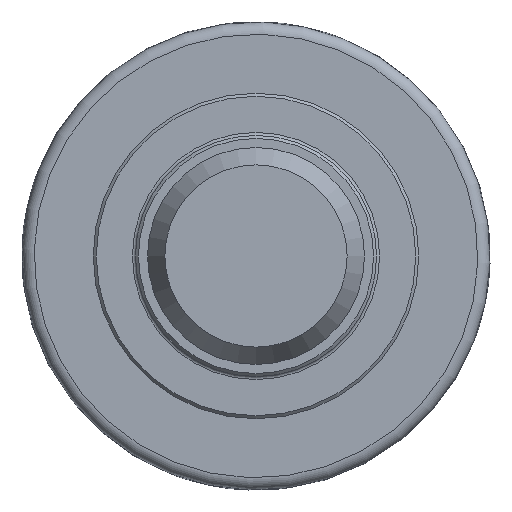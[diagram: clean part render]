
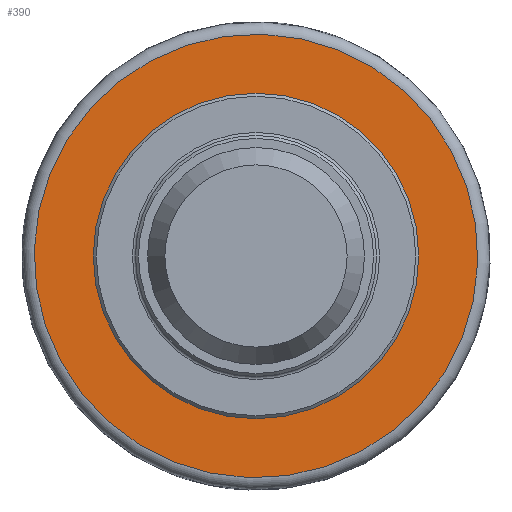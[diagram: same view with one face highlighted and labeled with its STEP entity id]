
A CAD part, left-side view. The second image highlights one B-rep face of the part: STEP entity #390.
In plain terms, the highlighted planar face has unit normal (-1, 0, 0).
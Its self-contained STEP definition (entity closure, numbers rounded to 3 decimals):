
#363=CARTESIAN_POINT('',(20.5,26.771,-21.085));
#364=DIRECTION('',(-1.0,0.0,0.0));
#365=DIRECTION('',(0.0,0.619,0.786));
#366=AXIS2_PLACEMENT_3D('',#363,#364,#365);
#367=PLANE('',#366);
#368=CARTESIAN_POINT('',(20.5,28.899,-22.76));
#369=VERTEX_POINT('',#368);
#370=CARTESIAN_POINT('',(20.5,0.,0.));
#371=DIRECTION('',(1.0,0.,0.));
#372=DIRECTION('',(0.,-0.786,0.619));
#373=AXIS2_PLACEMENT_3D('',#370,#371,#372);
#374=CIRCLE('',#373,36.785);
#375=EDGE_CURVE('',#369,#369,#374,.T.);
#376=ORIENTED_EDGE('',*,*,#375,.F.);
#377=EDGE_LOOP('',(#376));
#378=FACE_OUTER_BOUND('',#377,.T.);
#379=CARTESIAN_POINT('',(20.5,23.0,0.));
#380=VERTEX_POINT('',#379);
#381=CARTESIAN_POINT('',(20.5,0.,0.0));
#382=DIRECTION('',(-1.0,0.0,0.0));
#383=DIRECTION('',(0.0,-1.0,0.0));
#384=AXIS2_PLACEMENT_3D('',#381,#382,#383);
#385=CIRCLE('',#384,23.0);
#386=EDGE_CURVE('',#380,#380,#385,.T.);
#387=ORIENTED_EDGE('',*,*,#386,.F.);
#388=EDGE_LOOP('',(#387));
#389=FACE_BOUND('',#388,.T.);
#390=ADVANCED_FACE('',(#378,#389),#367,.T.);
